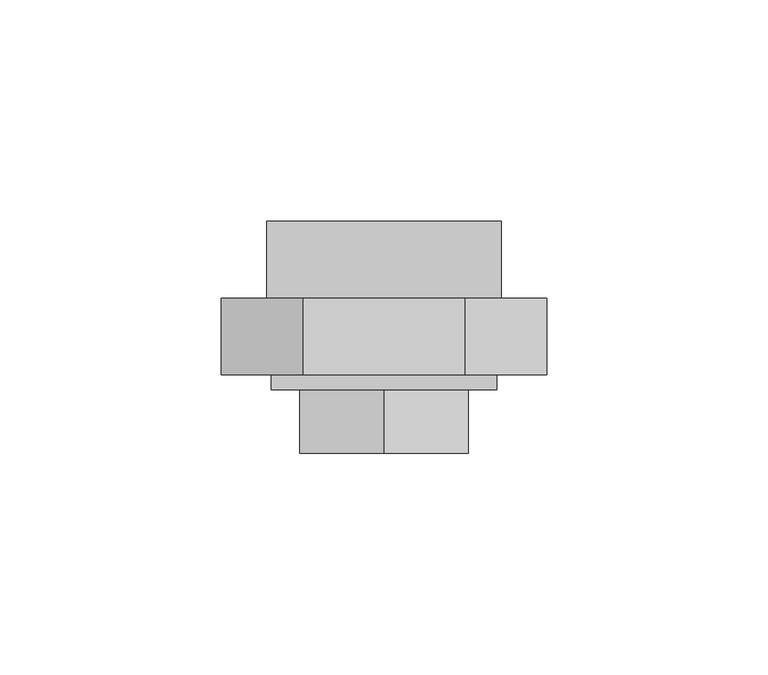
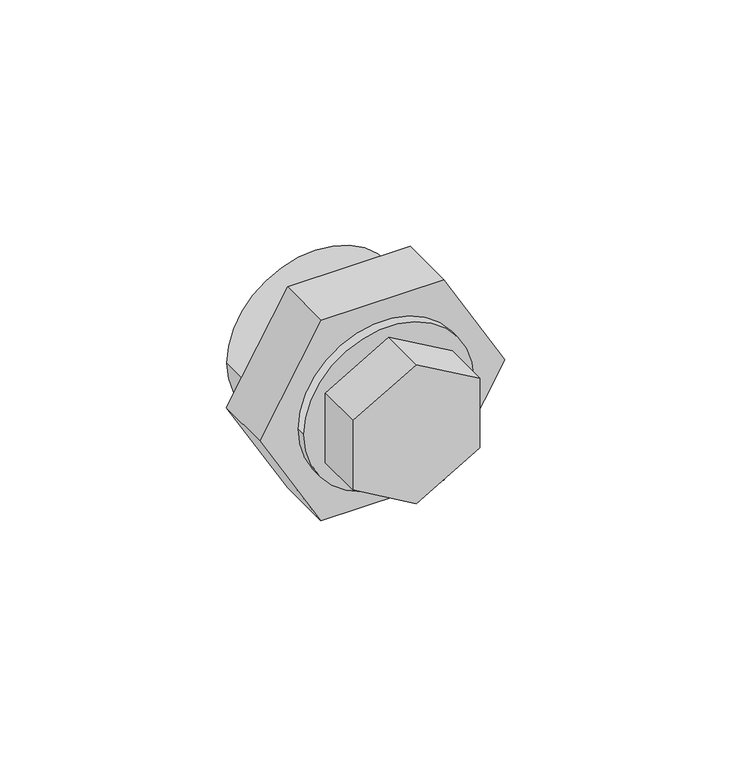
"""IFC4 building model written with IfcOpenShell, lengths in millimetres: pipe fitting geometry, EGB_VASEN_ PPR_Enlace desmontable rosca hembra WXR104 : Enlace desmontable rosca hembra WXR104."""

import ifcopenshell
import ifcopenshell.guid

model = None  # the IFC model being written
_history = None  # IfcOwnerHistory: only IFC2X3 demands one
_inside = {}  # id of a spatial element -> (the spatial element, [elements in it])
_under = {}  # id of a project, library or spatial element -> (it, [spatial elements below it])
_declared = {}  # id of a project -> (the project, [libraries it declares])
_typed = {}  # id of a type object -> (the type object, [elements of that type])
_made_of = {}  # id of a material, layer set ... -> (it, [elements and type objects made of it])


def new_model(schema):
    """Start an empty IFC model of exactly this schema.

    Asked for "IFC4X3", IfcOpenShell would pick the latest addendum, in which some entities
    have other attributes; the version numbers below select the first issue.
    IFC2X3 requires an IfcOwnerHistory on every rooted entity: one is made here for all.
    """
    global model, _history
    if schema == "IFC4X3":
        model = ifcopenshell.file(schema_version=(4, 3, 0, 0))
    else:
        model = ifcopenshell.file(schema=schema)
    _inside.clear()
    _under.clear()
    _declared.clear()
    _typed.clear()
    _made_of.clear()
    _history = None
    if model.schema == "IFC2X3":
        org = make("IfcOrganization", Name="unknown")
        user = make(
            "IfcPersonAndOrganization",
            ThePerson=make("IfcPerson", FamilyName="unknown"),
            TheOrganization=org,
        )
        app = make(
            "IfcApplication",
            ApplicationDeveloper=org,
            Version="unknown",
            ApplicationFullName="unknown",
            ApplicationIdentifier="unknown",
        )
        _history = make(
            "IfcOwnerHistory",
            OwningUser=user,
            OwningApplication=app,
            ChangeAction="ADDED",
            CreationDate=0,
        )
    return model


def make(cls, **values):
    """One entity of the class cls with the attributes given. An attribute that is None is left unset."""
    return model.create_entity(
        cls, **{name: value for name, value in values.items() if value is not None}
    )


def rooted(cls, **values):
    """An entity with a GlobalId (a new one), such as an element, a storey or a relation."""
    return make(cls, GlobalId=ifcopenshell.guid.new(), OwnerHistory=_history, **values)


def si_unit(unit_type, name, prefix=None):
    """IfcSIUnit, for example si_unit("LENGTHUNIT", "METRE", prefix="MILLI")."""
    return make("IfcSIUnit", UnitType=unit_type, Prefix=prefix, Name=name)


def assignment(units):
    """IfcUnitAssignment: the units of a project."""
    return None if units is None else make("IfcUnitAssignment", Units=units)


def point(xyz):
    """IfcCartesianPoint."""
    return None if xyz is None else make("IfcCartesianPoint", Coordinates=xyz)


def direction(xyz):
    """IfcDirection."""
    return None if xyz is None else make("IfcDirection", DirectionRatios=xyz)


def frame(location, z_axis=None, x_axis=None):
    """IfcAxis2Placement3D, a coordinate frame: its origin and axes. An axis left out is left unset."""
    return make(
        "IfcAxis2Placement3D",
        Location=point(location),
        Axis=direction(z_axis),
        RefDirection=direction(x_axis),
    )


def frame_2d(location, x_axis=None):
    """IfcAxis2Placement2D, a coordinate frame in the plane: its origin and x axis."""
    return make(
        "IfcAxis2Placement2D", Location=point(location), RefDirection=direction(x_axis)
    )


def origin():
    """The frame at (0, 0, 0) with its axes left unset."""
    return frame((0.0, 0.0, 0.0))


def origin_2d():
    """The frame at (0, 0) in the plane with its x axis left unset."""
    return frame_2d((0.0, 0.0))


def place(relative_to, where):
    """IfcLocalPlacement: puts the frame where relative to a parent placement (None: the world)."""
    return make(
        "IfcLocalPlacement", PlacementRelTo=relative_to, RelativePlacement=where
    )


def context(
    kind, dimensions, precision=None, world=None, true_north=None, identifier=None
):
    """IfcGeometricRepresentationContext, for example the 3D "Model" context."""
    return make(
        "IfcGeometricRepresentationContext",
        ContextIdentifier=identifier,
        ContextType=kind,
        CoordinateSpaceDimension=dimensions,
        Precision=precision,
        WorldCoordinateSystem=world,
        TrueNorth=true_north,
    )


def project(units=None, contexts=None):
    """IfcProject with its units and contexts."""
    return rooted(
        "IfcProject",
        Name="project",
        RepresentationContexts=contexts,
        UnitsInContext=assignment(units),
    )


def spatial(cls, under=None, at=None, **own):
    """A site, building, storey or space (cls), placed at a placement, below another one or the project."""
    s = rooted(cls, ObjectPlacement=at, **own)
    if under is not None:
        _under.setdefault(under.id(), (under, []))[1].append(s)
    return s


def polyline(points):
    """IfcPolyline through the points."""
    return make("IfcPolyline", Points=[point(p) for p in points])


def circle_curve(where, radius):
    """IfcCircle in the frame where."""
    return make("IfcCircle", Position=where, Radius=radius)


def trimmed(basis, trim1, trim2, sense, master):
    """IfcTrimmedCurve: the piece of a basis curve between two trims."""
    return make(
        "IfcTrimmedCurve",
        BasisCurve=basis,
        Trim1=trim1,
        Trim2=trim2,
        SenseAgreement=sense,
        MasterRepresentation=master,
    )


def segment(curve, same_sense, transition):
    """IfcCompositeCurveSegment."""
    return make(
        "IfcCompositeCurveSegment",
        Transition=transition,
        SameSense=same_sense,
        ParentCurve=curve,
    )


def composite_curve(segments, self_intersect=None):
    """IfcCompositeCurve: segments joined end to end."""
    return make("IfcCompositeCurve", Segments=segments, SelfIntersect=self_intersect)


def outline(outer, holes=None, kind="AREA"):
    """IfcArbitraryClosedProfileDef: a profile drawn as a closed curve; with holes, ...WithVoids."""
    if holes is None:
        return make("IfcArbitraryClosedProfileDef", ProfileType=kind, OuterCurve=outer)
    return make(
        "IfcArbitraryProfileDefWithVoids",
        ProfileType=kind,
        OuterCurve=outer,
        InnerCurves=holes,
    )


def extrude(swept, where, along, depth):
    """IfcExtrudedAreaSolid: the profile swept, set in the frame where, extruded along a direction by depth."""
    return make(
        "IfcExtrudedAreaSolid",
        SweptArea=swept,
        Position=where,
        ExtrudedDirection=direction(along),
        Depth=depth,
    )


def shape(context_of_items, identifier, shape_type, items):
    """IfcShapeRepresentation: the items that make up one representation, for example the "Body"."""
    return make(
        "IfcShapeRepresentation",
        ContextOfItems=context_of_items,
        RepresentationIdentifier=identifier,
        RepresentationType=shape_type,
        Items=items,
    )


def source(mapping_origin, context_of_items, identifier, shape_type, items):
    """IfcRepresentationMap: a shape defined once, which mapped items show again and again."""
    return make(
        "IfcRepresentationMap",
        MappingOrigin=mapping_origin,
        MappedRepresentation=shape(context_of_items, identifier, shape_type, items),
    )


def transform(
    local_origin,
    x_axis=None,
    y_axis=None,
    z_axis=None,
    scale=None,
    scale2=None,
    scale3=None,
    uniform=True,
):
    """IfcCartesianTransformationOperator3D, or its non-uniform kind. x_axis, y_axis, z_axis: its Axis1, 2, 3."""
    if uniform:
        return make(
            "IfcCartesianTransformationOperator3D",
            Axis1=direction(x_axis),
            Axis2=direction(y_axis),
            LocalOrigin=point(local_origin),
            Scale=scale,
            Axis3=direction(z_axis),
        )
    return make(
        "IfcCartesianTransformationOperator3DnonUniform",
        Axis1=direction(x_axis),
        Axis2=direction(y_axis),
        LocalOrigin=point(local_origin),
        Scale=scale,
        Axis3=direction(z_axis),
        Scale2=scale2,
        Scale3=scale3,
    )


def mapped(mapping_source, mapping_target):
    """IfcMappedItem: shows the shape of a source again, moved by a transform."""
    return make(
        "IfcMappedItem", MappingSource=mapping_source, MappingTarget=mapping_target
    )


def made_of(thing, what):
    """Note that an element or type object is made of a material, layer set ...; save() writes the relation."""
    if what is not None:
        _made_of.setdefault(what.id(), (what, []))[1].append(thing)
    return thing


def element(
    cls,
    number,
    at=None,
    inside=None,
    cuts=None,
    type_object=None,
    material=None,
    context=None,
    identifier="Body",
    shape_type=None,
    held_by="IfcProductDefinitionShape",
    body=None,
    shapes=None,
    **own,
):
    """One element of the class cls, such as IfcWall. Its Tag is "e" and its number.

    at: its placement. inside: the storey or other place that contains it. cuts: it is an
    opening in that element (IfcRelVoidsElement). A single representation is given by context,
    identifier, shape_type and body (its items); several are given by shapes. held_by: the class
    of the entity that holds the representations. save() writes the other relations.
    """
    e = rooted(cls, Tag="e%d" % number, ObjectPlacement=at, **own)
    if body is not None:
        shapes = [shape(context, identifier, shape_type, body)]
    if shapes is not None:
        e.Representation = make(held_by, Representations=shapes)
    if inside is not None:
        _inside.setdefault(inside.id(), (inside, []))[1].append(e)
    if cuts is not None:
        rooted(
            "IfcRelVoidsElement", RelatingBuildingElement=cuts, RelatedOpeningElement=e
        )
    if type_object is not None:
        _typed.setdefault(type_object.id(), (type_object, []))[1].append(e)
    return made_of(e, material)


def aggregate(whole, parts):
    """IfcRelAggregates: a whole, such as a stair, and the parts it consists of."""
    return rooted("IfcRelAggregates", RelatingObject=whole, RelatedObjects=parts)


def save(model, path):
    """Write the relations noted so far, then the file.

    IfcRelAggregates (storeys below a building ...), IfcRelContainedInSpatialStructure (elements
    in a storey), IfcRelDefinesByType, IfcRelAssociatesMaterial and IfcRelDeclares: one each for
    every whole, place, type object, material and project.
    """
    for whole, parts in _under.values():
        aggregate(whole, parts)
    for where, things in _inside.values():
        rooted(
            "IfcRelContainedInSpatialStructure",
            RelatedElements=things,
            RelatingStructure=where,
        )
    for kind, things in _typed.values():
        rooted("IfcRelDefinesByType", RelatedObjects=things, RelatingType=kind)
    for what, things in _made_of.values():
        rooted("IfcRelAssociatesMaterial", RelatedObjects=things, RelatingMaterial=what)
    for by, libraries in _declared.values():
        rooted("IfcRelDeclares", RelatingContext=by, RelatedDefinitions=libraries)
    model.write(path)


def pipe_fitting_58777d4c(model_context):
    return source(origin(), model_context, "Body", "SweptSolid", [
        extrude(outline(polyline([(-10.9985226, -19.05), (-21.9970453, 0.0), (-10.9985226, 19.05), (10.9985226, 19.05), (21.9970453, 0.0), (10.9985226, -19.05), (-10.9985226, -19.05)])), frame((0.0, -34.42125, 0.0), z_axis=(0.0, 1.0, 0.0), x_axis=(0.0, 0.0, 1.0)), (0.0, 0.0, 1.0), 14.3333333),
        extrude(outline(polyline([(0.0, 36.7194771), (31.8, 18.3597386), (31.8, -18.3597386), (0.0, -36.7194771), (-31.8, -18.3597386), (-31.8, 18.3597386), (0.0, 36.7194771)])), frame((0.0, -16.7204167, 0.0), z_axis=(0.0, 1.0, 0.0), x_axis=(0.0, 0.0, 1.0)), (0.0, 0.0, 1.0), 17.3333333),
        extrude(outline(composite_curve([segment(trimmed(circle_curve(origin_2d(), 25.425), [point((0.0, -25.425))], [point((0.0, 25.425))], False, "CARTESIAN"), True, "CONTINUOUS"), segment(trimmed(circle_curve(origin_2d(), 25.425), [point((0.0, 25.425))], [point((0.0, -25.425))], False, "CARTESIAN"), True, "CONTINUOUS")], self_intersect=False)), frame((0.0, -20.0879167, 0.0), z_axis=(0.0, 1.0, 0.0), x_axis=(0.0, 0.0, 1.0)), (0.0, 0.0, 1.0), 3.3675),
        extrude(outline(composite_curve([segment(trimmed(circle_curve(origin_2d(), 26.5), [point((0.0, -26.5))], [point((0.0, 26.5))], False, "CARTESIAN"), True, "CONTINUOUS"), segment(trimmed(circle_curve(origin_2d(), 26.5), [point((0.0, 26.5))], [point((0.0, -26.5))], False, "CARTESIAN"), True, "CONTINUOUS")], self_intersect=False), holes=[composite_curve([segment(trimmed(circle_curve(origin_2d(), 20.0), [point((0.0, -20.0))], [point((0.0, 20.0))], True, "CARTESIAN"), True, "CONTINUOUS"), segment(trimmed(circle_curve(origin_2d(), 20.0), [point((0.0, 20.0))], [point((0.0, -20.0))], True, "CARTESIAN"), True, "CONTINUOUS")], self_intersect=False)]), frame((0.0, 0.6129167, 0.0), z_axis=(0.0, 1.0, 0.0), x_axis=(0.0, 0.0, 1.0)), (0.0, 0.0, 1.0), 17.3333333),
    ])


if __name__ == "__main__":
    model = new_model("IFC4")
    model_context = context("Model", 3, world=origin())
    ifc_project = project(units=[si_unit("LENGTHUNIT", "METRE", prefix="MILLI")], contexts=[model_context])
    site = spatial("IfcSite", under=ifc_project)
    building = spatial("IfcBuilding", under=site)
    placement = place(None, origin())
    pipe_fitting_shape = pipe_fitting_58777d4c(model_context)
    element("IfcPipeFitting", 1, ObjectType="EGB_VASEN_ PPR_Enlace desmontable rosca hembra WXR104 : Enlace desmontable rosca hembra WXR104", at=placement, inside=building, context=model_context, shape_type="MappedRepresentation", body=[
        mapped(pipe_fitting_shape, transform((0.0, 0.0, 0.0), x_axis=(1.0, 0.0, 0.0), y_axis=(0.0, 1.0, 0.0), z_axis=(0.0, 0.0, 1.0))),
    ])
    save(model, "model.ifc")
